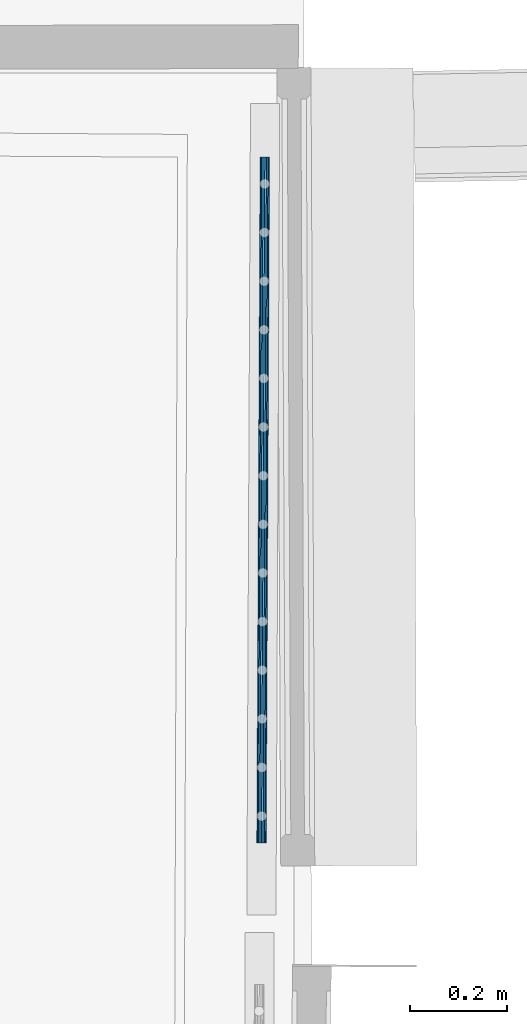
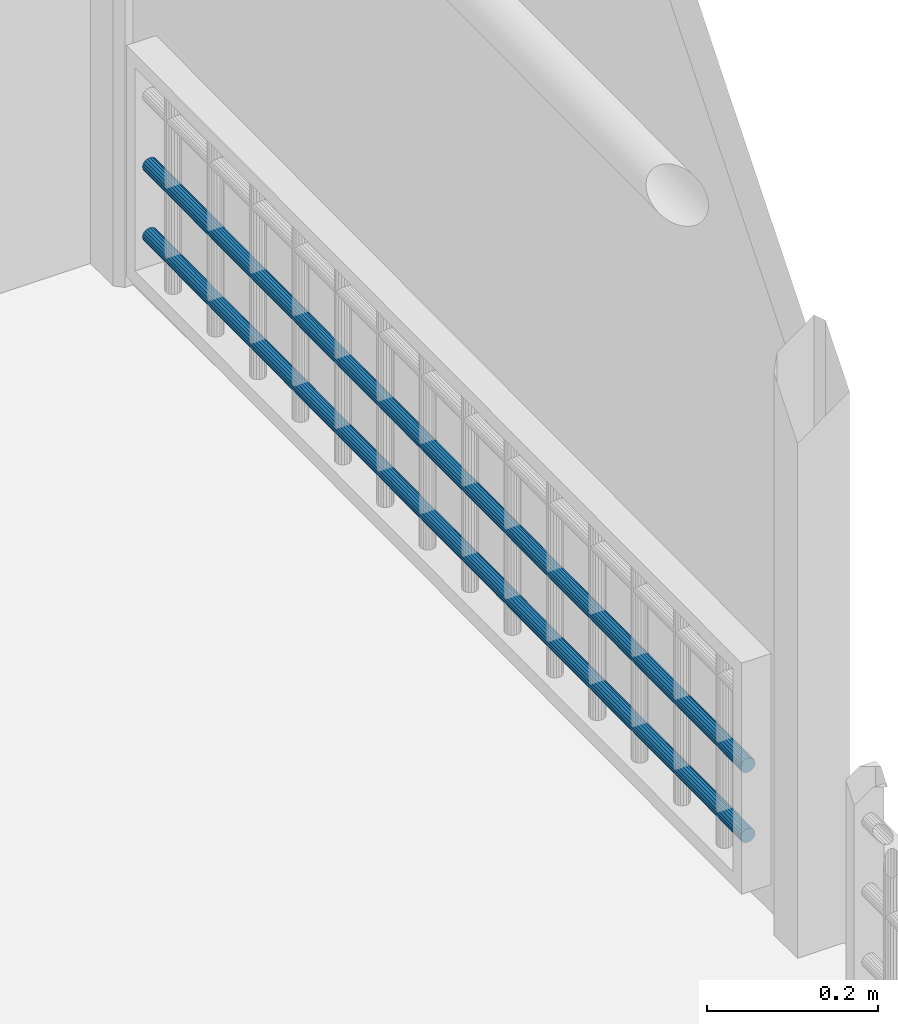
# One storey, part 28 of 72: 2 members, 1 element without a shape of its own.
"""IFC2X3 building model written with IfcOpenShell, lengths in centimetres."""

from ifc_helpers import new_model, entity, si_unit, converted_unit, direction, frame, origin, origin_with_axes, place, context, subcontext, project, spatial, faceted_brep, material, type_object, element, aggregate, save


model = new_model("IFC2X3")

# Units and contexts
model_context = context("Model", 3, precision=0.0001, world=origin(), true_north=direction((0.225632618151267, 0.974212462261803, 0.0)))
body_context = subcontext(model_context, "Body", "Model", "MODEL_VIEW")
ifc_project = project(units=[si_unit("LENGTHUNIT", "METRE", prefix="CENTI"), si_unit("AREAUNIT", "SQUARE_METRE", prefix="CENTI"), si_unit("VOLUMEUNIT", "CUBIC_METRE", prefix="CENTI"), converted_unit("PLANEANGLEUNIT", "DEGREE", entity("IfcRatioMeasure", 0.0174532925), si_unit("PLANEANGLEUNIT", "RADIAN"), dimensions=[0, 0, 0, 0, 0, 0, 0])], contexts=[model_context])

# Site, building, storey
site_placement = place(None, origin_with_axes())
site = spatial("IfcSite", under=ifc_project, at=site_placement, Name="Default Site", CompositionType="ELEMENT")
building_placement = place(site_placement, origin_with_axes())
building = spatial("IfcBuilding", under=site, at=building_placement, Name="Default Building", CompositionType="ELEMENT")
storey_placement = place(building_placement, frame((0.0, 0.0, 853.910374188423), z_axis=(0.0, 0.0, 1.0), x_axis=(1.0, 0.0, 0.0)))
storey = spatial("IfcBuildingStorey", under=building, at=storey_placement, Name="Niveau 2", CompositionType="ELEMENT", Elevation=853.910374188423)

# Assembly, members
building_element_proxy_type = type_object("IfcBuildingElementProxyType", Name="Type Object", PredefinedType="NOTDEFINED")
assembly_placement = place(storey_placement, frame((1065.78157704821, 135.618268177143, 11.9999999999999), z_axis=(0.0, 0.0, 1.0), x_axis=(-0.00486371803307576, -0.999988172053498, 0.0)))
assembly = element("IfcElementAssembly", 1, at=assembly_placement, inside=storey, type_object=building_element_proxy_type, Name="Panneau 1702025", ObjectType="Precast panel", PredefinedType="USERDEFINED")
ifc_material = material(Name="Aluminium satiné")
member_1_placement = place(assembly_placement, frame((142.999994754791, 0.342020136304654, 15.5603080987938), z_axis=(1.0, -4.41582534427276e-14, -2.550433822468e-14), x_axis=(-5.09930639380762e-14, -0.866026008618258, -0.499998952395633)))
member_1 = element("IfcMember", 2, at=member_1_placement, material=ifc_material, Name="4294967131", context=body_context, shape_type="Brep", body=[
    faceted_brep([(4.01068067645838e-13, 7.7715611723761e-14, 0.0), (-0.347296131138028, 8.60422844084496e-14, -1.77151159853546e-14), (-0.67364750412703, -0.118782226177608, -3.43619190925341e-14), (-0.939691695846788, -0.342020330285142, -4.79325780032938e-14), (-1.11333977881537, -0.642788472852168, -5.67902673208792e-14), (-1.173646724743, -0.98480869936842, -5.98665931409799e-14), (-1.11333863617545, -1.32682824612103, -5.67905056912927e-14), (-0.939690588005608, -1.62759638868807, -4.79330790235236e-14), (-0.673645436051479, -1.8508330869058, -3.43625647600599e-14), (-0.347293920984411, -1.96961580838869, -1.77158574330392e-14), (2.95521051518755e-06, -1.96961451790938, -7.03442779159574e-19), (0.326354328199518, -1.85083229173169, 1.66460996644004e-14), (0.592398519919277, -1.62759418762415, 3.021675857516e-14), (0.766046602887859, -1.32682604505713, 3.90744478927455e-14), (0.826353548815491, -0.984805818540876, 4.21507737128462e-14), (0.766045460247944, -0.642786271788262, 3.90746862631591e-14), (0.592396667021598, -0.342019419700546, 3.02172215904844e-14), (0.326352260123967, -0.118781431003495, 1.66467453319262e-14), (0.326352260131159, -0.118781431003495, -140.999994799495), (0.59239666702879, -0.342019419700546, -140.999994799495), (0.766045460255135, -0.642786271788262, -140.999994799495), (0.826353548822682, -0.984805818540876, -140.999994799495), (0.76604660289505, -1.32682604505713, -140.999994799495), (0.592398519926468, -1.62759418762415, -140.999994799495), (0.32635432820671, -1.85083229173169, -140.999994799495), (2.95521770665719e-06, -1.96961451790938, -140.999994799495), (-0.347293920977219, -1.96961580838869, -140.999994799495), (-0.673645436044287, -1.8508330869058, -140.999994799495), (-0.939690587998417, -1.62759638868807, -140.999994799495), (-1.11333863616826, -1.32682824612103, -140.999994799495), (-1.17364672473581, -0.98480869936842, -140.999994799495), (-1.11333977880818, -0.642788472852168, -140.999994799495), (-0.939691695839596, -0.342020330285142, -140.999994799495), (-0.673647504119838, -0.118782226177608, -140.999994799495), (-0.347296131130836, 8.60422844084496e-14, -140.999994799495), (7.59253770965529e-12, 7.7715611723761e-14, -140.999994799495), (0.326352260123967, -0.118781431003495, 2.22044604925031e-14), (0.592397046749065, -0.342018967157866, 4.44089403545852e-14), (0.592397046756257, -0.342018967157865, -140.999994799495), (0.592396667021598, -0.342019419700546, 4.44089209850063e-14), (0.766045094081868, -0.642786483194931, 4.4408902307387e-14), (0.76604509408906, -0.642786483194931, -140.999994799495), (0.766045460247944, -0.642786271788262, 4.44089209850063e-14), (0.826353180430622, -0.984805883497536, 6.66133626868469e-14), (0.826353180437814, -0.984805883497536, -140.999994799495), (0.766045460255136, -0.642786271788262, -140.999994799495), (0.826353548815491, -0.984805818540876, 6.66133814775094e-14), (0.76604658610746, -1.32682604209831, 4.44089201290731e-14), (0.766046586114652, -1.32682604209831, -140.999994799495), (0.826353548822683, -0.984805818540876, -140.999994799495), (0.766046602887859, -1.32682604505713, 4.44089209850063e-14), (0.592398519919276, -1.62759418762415, 4.44089209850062e-14), (0.592398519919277, -1.62759418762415, 4.44089209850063e-14), (0.326354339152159, -1.85083230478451, 2.22044610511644e-14), (0.326354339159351, -1.85083230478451, -140.999994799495), (0.326354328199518, -1.85083229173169, 2.22044604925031e-14), (3.08314968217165e-06, -1.96961486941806, 6.52561119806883e-21), (3.08315687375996e-06, -1.96961486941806, -140.999994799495), (2.95521051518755e-06, -1.96961451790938, 0.0), (-0.347293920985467, -1.96961494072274, 7.34925644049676e-25), (-0.347293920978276, -1.96961494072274, -140.999994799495), (-0.347293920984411, -1.96961580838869, 0.0), (-0.673645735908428, -1.85083391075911, -2.22044757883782e-14), (-0.673645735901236, -1.85083391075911, -140.999994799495), (-0.673645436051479, -1.8508330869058, -2.22044604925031e-14), (-0.939690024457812, -1.62759571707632, -4.44088922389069e-14), (-0.939690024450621, -1.62759571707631, -140.999994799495), (-0.939690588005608, -1.62759638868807, -4.44089209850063e-14), (-1.11333938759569, -1.32682867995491, -4.44089593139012e-14), (-1.1133393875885, -1.32682867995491, -140.999994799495), (-0.939690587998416, -1.62759638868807, -140.999994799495), (-1.11333863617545, -1.32682824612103, -4.44089209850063e-14), (-1.17364635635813, -0.98480863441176, -6.66133626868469e-14), (-1.17364635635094, -0.984808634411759, -140.999994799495), (-1.173646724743, -0.98480869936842, -6.66133814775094e-14), (-1.11333976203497, -0.642788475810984, -4.44089201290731e-14), (-1.11333976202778, -0.642788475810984, -140.999994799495), (-1.11333977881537, -0.642788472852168, -4.44089209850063e-14), (-0.939691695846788, -0.342020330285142, -4.44089209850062e-14), (-0.939691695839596, -0.342020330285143, -140.999994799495), (-0.939691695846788, -0.342020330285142, -4.44089209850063e-14), (-0.67364751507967, -0.118782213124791, -2.22044610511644e-14), (-0.673647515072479, -0.118782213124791, -140.999994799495), (-0.67364750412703, -0.118782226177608, -2.22044604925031e-14), (-0.347296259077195, 3.51508760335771e-07, -6.52561119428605e-21), (-0.347296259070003, 3.5150876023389e-07, -140.999994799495), (-0.347296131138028, 8.60422844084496e-14, 0.0), (-1.13681035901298e-13, 4.22812536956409e-07, 3.58128284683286e-25), (7.0777886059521e-12, 4.22812537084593e-07, -140.999994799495), (-0.347296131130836, 8.6170468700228e-14, -140.999994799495), (0.326352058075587, -0.118781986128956, 2.22044501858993e-14), (0.326352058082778, -0.118781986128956, -140.999994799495), (7.5926571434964e-12, 7.8043754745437e-14, -140.999994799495)], [[[0, 1, 2, 3, 4, 5, 6, 7, 8, 9, 10, 11, 12, 13, 14, 15, 16, 17]], [[18, 19, 20, 21, 22, 23, 24, 25, 26, 27, 28, 29, 30, 31, 32, 33, 34, 35]], [[36, 37, 38, 18]], [[39, 40, 41, 19]], [[42, 43, 44, 45]], [[46, 47, 48, 49]], [[50, 51, 23, 22]], [[52, 53, 54, 23]], [[55, 56, 57, 24]], [[58, 59, 60, 25]], [[61, 62, 63, 26]], [[64, 65, 66, 27]], [[67, 68, 69, 70]], [[71, 72, 73, 29]], [[74, 75, 76, 30]], [[77, 78, 79, 31]], [[80, 81, 82, 32]], [[83, 84, 85, 33]], [[86, 87, 88, 89]], [[0, 90, 91, 92]]]),
])
member_2_placement = place(assembly_placement, frame((142.999994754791, 0.342020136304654, 5.56030720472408), z_axis=(1.0, -4.41582534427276e-14, -2.550433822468e-14), x_axis=(-5.09930639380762e-14, -0.866025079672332, -0.500000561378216)))
member_2 = element("IfcMember", 3, at=member_2_placement, material=ifc_material, Name="4294967130", context=body_context, shape_type="Brep", body=[
    faceted_brep([(3.67761376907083e-13, 1.07552855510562e-13, 2.22044604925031e-14), (-0.347296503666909, 1.13797860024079e-13, 4.48932550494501e-15), (-0.67364828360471, -0.118781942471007, -1.2157446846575e-14), (-0.939693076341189, -0.342019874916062, -2.57280396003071e-14), (-1.11334134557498, -0.642787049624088, -3.45856079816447e-14), (-1.17364892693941, -0.984807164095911, -3.76618178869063e-14), (-1.11334184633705, -1.32682746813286, -3.45856335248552e-14), (-0.939693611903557, -1.62759464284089, -2.57280669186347e-14), (-0.673649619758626, -1.85083312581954, -1.21575150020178e-14), (-0.347297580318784, -1.9696151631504, 4.48927058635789e-15), (-1.44918095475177e-06, -1.96961580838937, 2.22043865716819e-14), (0.32635051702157, -1.85083354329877, 3.8851168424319e-14), (0.592395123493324, -1.6275959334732, 5.2421751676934e-14), (0.766043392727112, -1.32682875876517, 6.12793200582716e-14), (0.826351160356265, -0.984808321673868, 6.43555394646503e-14), (0.766043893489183, -0.642788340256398, 6.12793456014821e-14), (0.592396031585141, -0.3420205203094, 5.24217979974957e-14), (0.326351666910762, -0.118782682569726, 3.88512270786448e-14), (0.326351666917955, -0.118782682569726, -140.999994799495), (0.592396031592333, -0.3420205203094, -140.999994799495), (0.766043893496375, -0.642788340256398, -140.999994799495), (0.826351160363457, -0.984808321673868, -140.999994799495), (0.766043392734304, -1.32682875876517, -140.999994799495), (0.592395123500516, -1.6275959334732, -140.999994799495), (0.326350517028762, -1.85083354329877, -140.999994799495), (-1.44917376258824e-06, -1.96961580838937, -140.999994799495), (-0.347297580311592, -1.9696151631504, -140.999994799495), (-0.673649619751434, -1.85083312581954, -140.999994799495), (-0.939693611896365, -1.62759464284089, -140.999994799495), (-1.11334184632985, -1.32682746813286, -140.999994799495), (-1.17364892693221, -0.984807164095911, -140.999994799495), (-1.11334134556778, -0.642787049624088, -140.999994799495), (-0.939693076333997, -0.342019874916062, -140.999994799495), (-0.673648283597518, -0.118781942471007, -140.999994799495), (-0.347296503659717, 1.13797860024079e-13, -140.999994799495), (7.55992490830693e-12, 1.07552855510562e-13, -140.999994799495), (0.326351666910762, -0.118782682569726, 4.44089209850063e-14), (0.592395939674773, -0.342020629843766, 6.66133767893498e-14), (0.592395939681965, -0.342020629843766, -140.999994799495), (0.592396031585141, -0.3420205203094, 6.66133814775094e-14), (0.766044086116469, -0.642788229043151, 4.44089308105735e-14), (0.766044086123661, -0.642788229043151, -140.999994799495), (0.766043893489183, -0.642788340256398, 4.44089209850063e-14), (0.826351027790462, -0.98480834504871, 6.66133747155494e-14), (0.826351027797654, -0.98480834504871, -140.999994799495), (0.826351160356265, -0.984808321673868, 6.66133814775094e-14), (0.76604350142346, -1.32682877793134, 6.66133870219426e-14), (0.766043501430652, -1.32682877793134, -140.999994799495), (0.766043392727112, -1.32682875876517, 6.66133814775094e-14), (0.592395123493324, -1.6275959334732, 4.44089209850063e-14), (0.592395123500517, -1.6275959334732, -140.999994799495), (0.326350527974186, -1.85083355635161, 4.44089215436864e-14), (0.326350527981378, -1.85083355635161, -140.999994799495), (0.32635051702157, -1.85083354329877, 4.44089209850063e-14), (-1.48504040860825e-06, -1.96961570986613, 2.22044586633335e-14), (-1.48503321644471e-06, -1.96961570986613, -140.999994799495), (-1.44918095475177e-06, -1.96961580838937, 2.22044604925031e-14), (-0.347297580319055, -1.96961558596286, 1.42836055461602e-25), (-0.347297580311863, -1.96961558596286, -140.999994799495), (-0.347297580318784, -1.9696151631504, 0.0), (-0.673649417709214, -1.85083257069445, -2.22044501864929e-14), (-0.673649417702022, -1.85083257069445, -140.999994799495), (-0.673649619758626, -1.85083312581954, -2.22044604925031e-14), (-0.939693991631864, -1.62759509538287, -4.44089403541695e-14), (-0.939693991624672, -1.62759509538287, -140.999994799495), (-0.939693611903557, -1.62759464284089, -4.44089209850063e-14), (-1.11334148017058, -1.32682725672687, -2.22044418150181e-14), (-1.11334148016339, -1.32682725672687, -140.999994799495), (-1.11334184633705, -1.32682746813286, -2.22044604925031e-14), (-1.17364903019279, -0.984807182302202, -4.44089262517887e-14), (-1.1736490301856, -0.984807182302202, -140.999994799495), (-1.11334184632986, -1.32682746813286, -140.999994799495), (-1.17364892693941, -0.984807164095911, -4.44089209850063e-14), (-1.11334132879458, -0.642787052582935, -4.44089201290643e-14), (-1.11334132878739, -0.642787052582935, -140.999994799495), (-1.11334134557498, -0.642787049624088, -4.44089209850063e-14), (-0.939693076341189, -0.342019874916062, -2.22044604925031e-14), (-0.673648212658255, -0.118782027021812, -2.22044568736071e-14), (-0.673648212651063, -0.118782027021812, -140.999994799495), (-0.67364828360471, -0.118781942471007, -2.22044604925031e-14), (-0.347296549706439, 1.26492947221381e-07, -2.34844933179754e-21), (-0.347296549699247, 1.26492947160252e-07, -140.999994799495), (-0.347296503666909, 1.13797860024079e-13, 0.0), (2.25307713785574e-13, -2.22426639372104e-07, 2.22044604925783e-14), (7.41747124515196e-12, -2.22426639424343e-07, -140.999994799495), (-0.347296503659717, 1.13745620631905e-13, -140.999994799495), (0.326351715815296, -0.118782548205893, 4.44089234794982e-14), (0.326351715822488, -0.118782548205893, -140.999994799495), (7.55991042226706e-12, 1.07513055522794e-13, -140.999994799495)], [[[0, 1, 2, 3, 4, 5, 6, 7, 8, 9, 10, 11, 12, 13, 14, 15, 16, 17]], [[18, 19, 20, 21, 22, 23, 24, 25, 26, 27, 28, 29, 30, 31, 32, 33, 34, 35]], [[36, 37, 38, 18]], [[39, 40, 41, 19]], [[42, 43, 44, 20]], [[45, 46, 47, 21]], [[48, 49, 50, 22]], [[49, 51, 52, 23]], [[53, 54, 55, 24]], [[56, 57, 58, 25]], [[59, 60, 61, 26]], [[62, 63, 64, 27]], [[65, 66, 67, 28]], [[68, 69, 70, 71]], [[72, 73, 74, 30]], [[75, 76, 32, 31]], [[76, 77, 78, 32]], [[79, 80, 81, 33]], [[82, 83, 84, 85]], [[0, 86, 87, 88]]]),
])
aggregate(assembly, [member_1, member_2])

save(model, "model.ifc")
